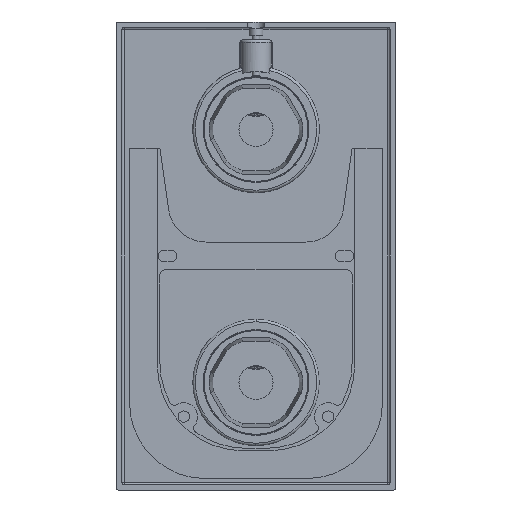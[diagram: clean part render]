
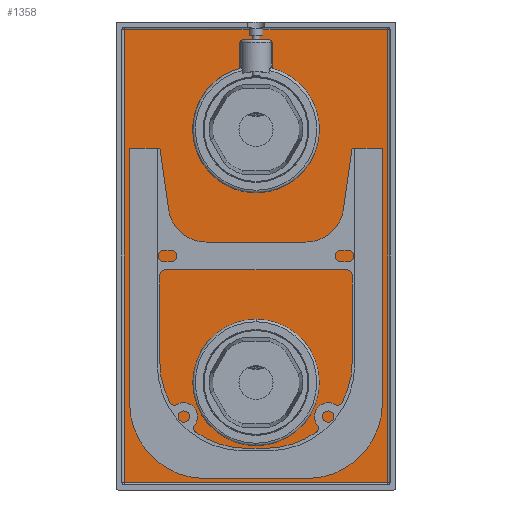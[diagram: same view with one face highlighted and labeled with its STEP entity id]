
A CAD part, front view. The second image highlights one B-rep face of the part: STEP entity #1358.
In plain terms, the highlighted planar face has unit normal (0, -1, 0) as drawn and (0, 0, -1) by its records, which use the part's own axes.
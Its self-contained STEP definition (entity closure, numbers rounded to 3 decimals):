
#122=CARTESIAN_POINT('',(0.,50.,7.5));
#123=DIRECTION('',(0.,0.,1.));
#124=DIRECTION('',(0.,-1.,0.));
#125=AXIS2_PLACEMENT_3D('',#122,#123,#124);
#127=CARTESIAN_POINT('',(0.,50.,7.5));
#128=DIRECTION('',(0.,0.,1.));
#129=DIRECTION('',(0.,1.,0.));
#130=AXIS2_PLACEMENT_3D('',#127,#128,#129);
#132=CARTESIAN_POINT('',(-1.166,-85.493,7.5));
#133=CARTESIAN_POINT('',(-2.473,-85.493,7.5));
#134=CARTESIAN_POINT('',(-3.779,-85.5,7.5));
#135=CARTESIAN_POINT('',(-5.086,-85.5,7.5));
#137=CARTESIAN_POINT('',(-5.086,-85.5,7.5));
#138=CARTESIAN_POINT('',(-5.212,-85.5,7.5));
#139=CARTESIAN_POINT('',(-5.461,-85.46,7.5));
#140=CARTESIAN_POINT('',(-5.845,-85.264,7.5));
#141=CARTESIAN_POINT('',(-6.192,-84.932,7.5));
#142=CARTESIAN_POINT('',(-6.394,-84.65,7.5));
#143=CARTESIAN_POINT('',(-6.5,-84.5,7.5));
#145=DIRECTION('',(0.,1.,0.));
#146=VECTOR('',#145,10.36);
#147=CARTESIAN_POINT('',(-6.5,-84.5,7.5));
#148=LINE('',#147,#146);
#149=DIRECTION('',(0.,-1.,0.));
#150=VECTOR('',#149,10.36);
#151=CARTESIAN_POINT('',(6.5,-74.14,7.5));
#152=LINE('',#151,#150);
#153=CARTESIAN_POINT('',(6.5,-84.5,7.5));
#154=CARTESIAN_POINT('',(6.393,-84.651,7.5));
#155=CARTESIAN_POINT('',(6.191,-84.933,7.5));
#156=CARTESIAN_POINT('',(5.844,-85.265,7.5));
#157=CARTESIAN_POINT('',(5.461,-85.46,7.5));
#158=CARTESIAN_POINT('',(5.211,-85.5,7.5));
#159=CARTESIAN_POINT('',(5.086,-85.5,7.5));
#161=CARTESIAN_POINT('',(5.086,-85.5,7.5));
#162=CARTESIAN_POINT('',(3.779,-85.5,7.5));
#163=CARTESIAN_POINT('',(2.473,-85.493,7.5));
#164=CARTESIAN_POINT('',(1.166,-85.493,7.5));
#166=DIRECTION('',(0.,-1.,0.));
#167=VECTOR('',#166,4.007);
#168=CARTESIAN_POINT('',(1.166,-85.493,7.5));
#169=LINE('',#168,#167);
#170=DIRECTION('',(1.,0.,0.));
#171=VECTOR('',#170,50.834);
#172=CARTESIAN_POINT('',(1.166,-89.5,7.5));
#173=LINE('',#172,#171);
#174=DIRECTION('',(0.,1.,0.));
#175=VECTOR('',#174,179.);
#176=CARTESIAN_POINT('',(52.,-89.5,7.5));
#177=LINE('',#176,#175);
#178=DIRECTION('',(-1.,0.,0.));
#179=VECTOR('',#178,104.);
#180=CARTESIAN_POINT('',(52.,89.5,7.5));
#181=LINE('',#180,#179);
#182=DIRECTION('',(0.,-1.,0.));
#183=VECTOR('',#182,179.);
#184=CARTESIAN_POINT('',(-52.,89.5,7.5));
#185=LINE('',#184,#183);
#186=DIRECTION('',(1.,0.,0.));
#187=VECTOR('',#186,50.834);
#188=CARTESIAN_POINT('',(-52.,-89.5,7.5));
#189=LINE('',#188,#187);
#190=DIRECTION('',(0.,-1.,0.));
#191=VECTOR('',#190,4.007);
#192=CARTESIAN_POINT('',(-1.166,-85.493,7.5));
#193=LINE('',#192,#191);
#542=CARTESIAN_POINT('',(6.5,-74.14,7.5));
#550=CARTESIAN_POINT('',(0.,-50.,7.5));
#551=DIRECTION('',(0.,0.,1.));
#552=DIRECTION('',(0.26,-0.966,0.));
#553=AXIS2_PLACEMENT_3D('',#550,#551,#552);
#561=CARTESIAN_POINT('',(-6.5,-74.14,7.5));
#840=CARTESIAN_POINT('',(1.166,-89.5,7.5));
#842=CARTESIAN_POINT('',(-1.166,-89.5,7.5));
#1004=CARTESIAN_POINT('',(52.,89.5,7.5));
#1005=CARTESIAN_POINT('',(-52.,89.5,7.5));
#1006=VERTEX_POINT('',#1004);
#1007=VERTEX_POINT('',#1005);
#1012=CARTESIAN_POINT('',(-52.,-89.5,7.5));
#1013=VERTEX_POINT('',#1012);
#1022=CARTESIAN_POINT('',(52.,-89.5,7.5));
#1023=VERTEX_POINT('',#1022);
#1024=CARTESIAN_POINT('',(0.,25.,7.5));
#1025=CARTESIAN_POINT('',(0.,75.,7.5));
#1026=VERTEX_POINT('',#1024);
#1027=VERTEX_POINT('',#1025);
#1134=VERTEX_POINT('',#840);
#1135=VERTEX_POINT('',#842);
#1136=CARTESIAN_POINT('',(1.166,-85.493,7.5));
#1137=VERTEX_POINT('',#1136);
#1138=CARTESIAN_POINT('',(-1.166,-85.493,7.5));
#1139=VERTEX_POINT('',#1138);
#1167=VERTEX_POINT('',#161);
#1168=VERTEX_POINT('',#135);
#1183=VERTEX_POINT('',#561);
#1184=CARTESIAN_POINT('',(-6.5,-84.5,7.5));
#1185=VERTEX_POINT('',#1184);
#1188=VERTEX_POINT('',#542);
#1191=CARTESIAN_POINT('',(6.5,-84.5,7.5));
#1192=VERTEX_POINT('',#1191);
#1319=CARTESIAN_POINT('',(0.,0.,7.5));
#1320=DIRECTION('',(0.,0.,-1.));
#1321=DIRECTION('',(-1.,0.,0.));
#1322=AXIS2_PLACEMENT_3D('',#1319,#1320,#1321);
#1323=PLANE('',#1322);
#1325=ORIENTED_EDGE('',*,*,#1324,.T.);
#1327=ORIENTED_EDGE('',*,*,#1326,.T.);
#1329=ORIENTED_EDGE('',*,*,#1328,.T.);
#1331=ORIENTED_EDGE('',*,*,#1330,.F.);
#1333=ORIENTED_EDGE('',*,*,#1332,.T.);
#1335=ORIENTED_EDGE('',*,*,#1334,.T.);
#1337=ORIENTED_EDGE('',*,*,#1336,.T.);
#1338=ORIENTED_EDGE('',*,*,#1298,.T.);
#1340=ORIENTED_EDGE('',*,*,#1339,.T.);
#1342=ORIENTED_EDGE('',*,*,#1341,.T.);
#1344=ORIENTED_EDGE('',*,*,#1343,.T.);
#1346=ORIENTED_EDGE('',*,*,#1345,.T.);
#1348=ORIENTED_EDGE('',*,*,#1347,.T.);
#1349=ORIENTED_EDGE('',*,*,#1302,.F.);
#1350=EDGE_LOOP('',(#1325,#1327,#1329,#1331,#1333,#1335,#1337,#1338,#1340,#1342,
#1344,#1346,#1348,#1349));
#1351=FACE_OUTER_BOUND('',#1350,.F.);
#1353=ORIENTED_EDGE('',*,*,#1352,.F.);
#1355=ORIENTED_EDGE('',*,*,#1354,.F.);
#1356=EDGE_LOOP('',(#1353,#1355));
#1357=FACE_BOUND('',#1356,.F.);
#1358=ADVANCED_FACE('',(#1351,#1357),#1323,.T.);
#126=CIRCLE('',#125,25.);
#131=CIRCLE('',#130,25.);
#136=B_SPLINE_CURVE_WITH_KNOTS('',3,(#132,#133,#134,#135),.UNSPECIFIED.,.F.,.F.,
(4,4),(0.,1.),.UNSPECIFIED.);
#144=B_SPLINE_CURVE_WITH_KNOTS('',3,(#137,#138,#139,#140,#141,#142,#143),
.UNSPECIFIED.,.F.,.F.,(4,1,1,1,4),(0.,0.25,0.5,0.75,1.),
.UNSPECIFIED.);
#160=B_SPLINE_CURVE_WITH_KNOTS('',3,(#153,#154,#155,#156,#157,#158,#159),
.UNSPECIFIED.,.F.,.F.,(4,1,1,1,4),(0.,0.25,0.5,0.75,1.),
.UNSPECIFIED.);
#165=B_SPLINE_CURVE_WITH_KNOTS('',3,(#161,#162,#163,#164),.UNSPECIFIED.,.F.,.F.,
(4,4),(0.,1.),.UNSPECIFIED.);
#554=CIRCLE('',#553,25.);
#1298=EDGE_CURVE('',#1137,#1134,#169,.T.);
#1302=EDGE_CURVE('',#1139,#1135,#193,.T.);
#1324=EDGE_CURVE('',#1139,#1168,#136,.T.);
#1326=EDGE_CURVE('',#1168,#1185,#144,.T.);
#1328=EDGE_CURVE('',#1185,#1183,#148,.T.);
#1330=EDGE_CURVE('',#1188,#1183,#554,.T.);
#1332=EDGE_CURVE('',#1188,#1192,#152,.T.);
#1334=EDGE_CURVE('',#1192,#1167,#160,.T.);
#1336=EDGE_CURVE('',#1167,#1137,#165,.T.);
#1339=EDGE_CURVE('',#1134,#1023,#173,.T.);
#1341=EDGE_CURVE('',#1023,#1006,#177,.T.);
#1343=EDGE_CURVE('',#1006,#1007,#181,.T.);
#1345=EDGE_CURVE('',#1007,#1013,#185,.T.);
#1347=EDGE_CURVE('',#1013,#1135,#189,.T.);
#1352=EDGE_CURVE('',#1026,#1027,#126,.T.);
#1354=EDGE_CURVE('',#1027,#1026,#131,.T.);
